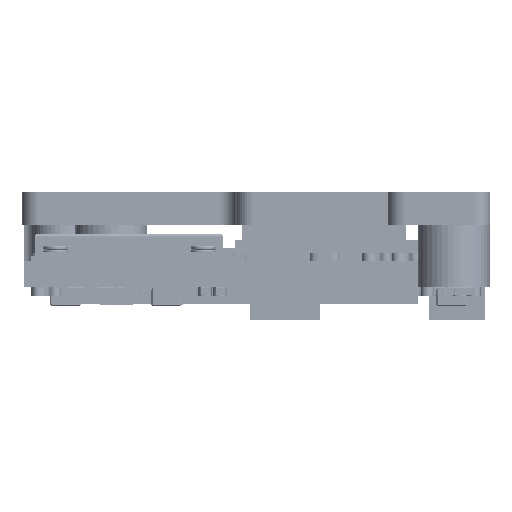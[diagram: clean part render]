
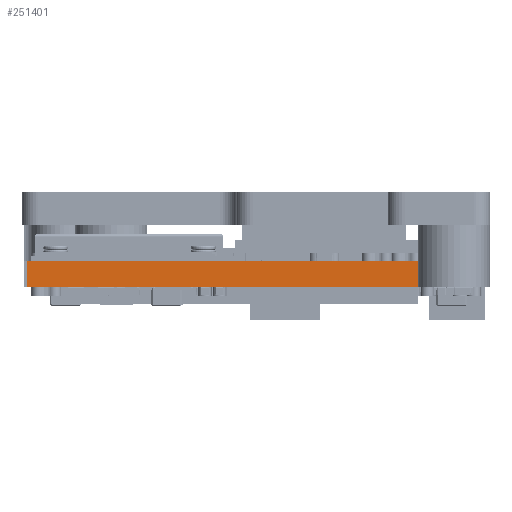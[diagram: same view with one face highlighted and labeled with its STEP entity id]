
A CAD part, left-side view. The second image highlights one B-rep face of the part: STEP entity #251401.
In plain terms, the highlighted planar face has unit normal (-1, 0, 0).
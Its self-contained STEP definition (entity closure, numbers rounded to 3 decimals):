
#5929 = ORIENTED_EDGE ( 'NONE', *, *, #246234, .F. ) ;
#11414 = VERTEX_POINT ( 'NONE', #183856 ) ;
#18720 = VECTOR ( 'NONE', #164436, 1000. ) ;
#19497 = DIRECTION ( 'NONE',  ( 0., -1., 0. ) ) ;
#34851 = DIRECTION ( 'NONE',  ( 0., -1., 0. ) ) ;
#36409 = VECTOR ( 'NONE', #48937, 1000. ) ;
#36972 = DIRECTION ( 'NONE',  ( 0., 0., -1. ) ) ;
#40881 = ORIENTED_EDGE ( 'NONE', *, *, #198852, .T. ) ;
#47795 = VERTEX_POINT ( 'NONE', #266407 ) ;
#48937 = DIRECTION ( 'NONE',  ( 0., 0., 1. ) ) ;
#50650 = CARTESIAN_POINT ( 'NONE',  ( 0., 28., 0. ) ) ;
#66963 = CARTESIAN_POINT ( 'NONE',  ( 0., 28., 0. ) ) ;
#71659 = LINE ( 'NONE', #183669, #113343 ) ;
#73978 = CARTESIAN_POINT ( 'NONE',  ( 0., 4., 1.6 ) ) ;
#75614 = EDGE_CURVE ( 'NONE', #286312, #268800, #325764, .T. ) ;
#85589 = VERTEX_POINT ( 'NONE', #358240 ) ;
#97214 = ORIENTED_EDGE ( 'NONE', *, *, #146220, .T. ) ;
#101530 = VERTEX_POINT ( 'NONE', #159374 ) ;
#103193 = ORIENTED_EDGE ( 'NONE', *, *, #104526, .T. ) ;
#104526 = EDGE_CURVE ( 'NONE', #47795, #268800, #272700, .T. ) ;
#113343 = VECTOR ( 'NONE', #126640, 1000. ) ;
#118295 = VECTOR ( 'NONE', #156907, 1000. ) ;
#126150 = CARTESIAN_POINT ( 'NONE',  ( 0., 28., 1.6 ) ) ;
#126640 = DIRECTION ( 'NONE',  ( 0., 0., -1. ) ) ;
#127833 = CARTESIAN_POINT ( 'NONE',  ( 0., 28., 1.6 ) ) ;
#146220 = EDGE_CURVE ( 'NONE', #101530, #85589, #243214, .T. ) ;
#156907 = DIRECTION ( 'NONE',  ( 0., -1., 0. ) ) ;
#159374 = CARTESIAN_POINT ( 'NONE',  ( 0., 28., 0. ) ) ;
#164436 = DIRECTION ( 'NONE',  ( 0., -1., 0. ) ) ;
#183669 = CARTESIAN_POINT ( 'NONE',  ( 0., 28., 1.6 ) ) ;
#183856 = CARTESIAN_POINT ( 'NONE',  ( 0., 28., 1.6 ) ) ;
#193978 = EDGE_CURVE ( 'NONE', #85589, #47795, #363509, .T. ) ;
#198852 = EDGE_CURVE ( 'NONE', #11414, #101530, #71659, .T. ) ;
#204888 = AXIS2_PLACEMENT_3D ( 'NONE', #127833, #239762, #36972 ) ;
#211408 = PLANE ( 'NONE',  #204888 ) ;
#239762 = DIRECTION ( 'NONE',  ( 1., 0., 0. ) ) ;
#243214 = LINE ( 'NONE', #66963, #274049 ) ;
#246234 = EDGE_CURVE ( 'NONE', #11414, #286312, #250749, .T. ) ;
#250749 = LINE ( 'NONE', #126150, #254570 ) ;
#251401 = ADVANCED_FACE ( 'NONE', ( #353592 ), #211408, .F. ) ;
#254570 = VECTOR ( 'NONE', #19497, 1000. ) ;
#266407 = CARTESIAN_POINT ( 'NONE',  ( 0., 3., 0. ) ) ;
#268800 = VERTEX_POINT ( 'NONE', #346721 ) ;
#272700 = LINE ( 'NONE', #365542, #36409 ) ;
#274049 = VECTOR ( 'NONE', #34851, 1000. ) ;
#286312 = VERTEX_POINT ( 'NONE', #73978 ) ;
#295548 = ORIENTED_EDGE ( 'NONE', *, *, #193978, .T. ) ;
#315144 = ORIENTED_EDGE ( 'NONE', *, *, #75614, .F. ) ;
#325764 = LINE ( 'NONE', #329488, #118295 ) ;
#329488 = CARTESIAN_POINT ( 'NONE',  ( 0., 28., 1.6 ) ) ;
#346721 = CARTESIAN_POINT ( 'NONE',  ( 0., 3., 1.6 ) ) ;
#353592 = FACE_OUTER_BOUND ( 'NONE', #370524, .T. ) ;
#358240 = CARTESIAN_POINT ( 'NONE',  ( 0., 4., 0. ) ) ;
#363509 = LINE ( 'NONE', #50650, #18720 ) ;
#365542 = CARTESIAN_POINT ( 'NONE',  ( 0., 3., 0. ) ) ;
#370524 = EDGE_LOOP ( 'NONE', ( #97214, #295548, #103193, #315144, #5929, #40881 ) ) ;
